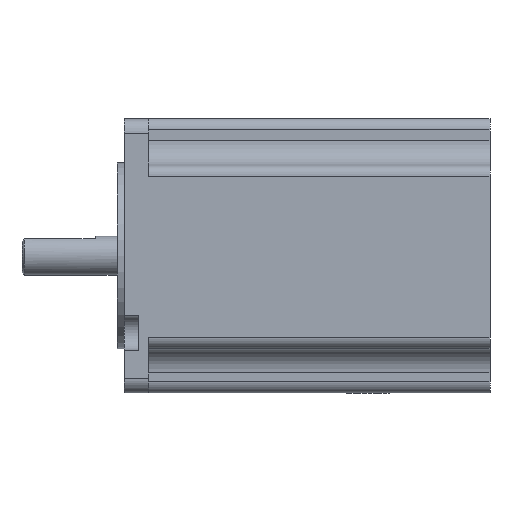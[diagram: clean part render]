
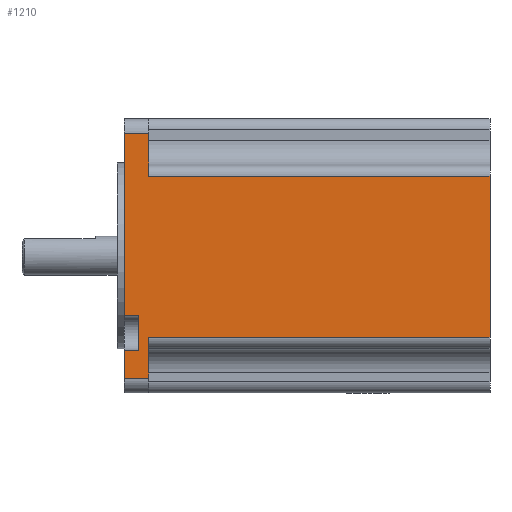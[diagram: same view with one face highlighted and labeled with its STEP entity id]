
A CAD part, left-side view. The second image highlights one B-rep face of the part: STEP entity #1210.
In plain terms, the highlighted planar face has unit normal (-1, 0, 0).
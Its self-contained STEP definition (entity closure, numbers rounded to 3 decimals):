
#49 = EDGE_CURVE ( 'NONE', #2161, #2102, #1697, .T. ) ;
#100 = DIRECTION ( 'NONE',  ( 0., -1., 0. ) ) ;
#122 = LINE ( 'NONE', #2050, #179 ) ;
#162 = EDGE_CURVE ( 'NONE', #2030, #423, #816, .T. ) ;
#179 = VECTOR ( 'NONE', #750, 1000. ) ;
#188 = LINE ( 'NONE', #2348, #551 ) ;
#237 = VECTOR ( 'NONE', #2130, 1000. ) ;
#266 = VECTOR ( 'NONE', #1065, 1000. ) ;
#287 = DIRECTION ( 'NONE',  ( 0., 0., 1. ) ) ;
#318 = VECTOR ( 'NONE', #287, 1000. ) ;
#342 = DIRECTION ( 'NONE',  ( 0., 1., 0. ) ) ;
#413 = CARTESIAN_POINT ( 'NONE',  ( -28.1, 2.1, -12.353 ) ) ;
#423 = VERTEX_POINT ( 'NONE', #1700 ) ;
#435 = CARTESIAN_POINT ( 'NONE',  ( -28.1, -70., -16.7 ) ) ;
#483 = DIRECTION ( 'NONE',  ( 0., 0., 1. ) ) ;
#505 = CARTESIAN_POINT ( 'NONE',  ( -28.1, 0., 25.1 ) ) ;
#527 = ORIENTED_EDGE ( 'NONE', *, *, #915, .F. ) ;
#551 = VECTOR ( 'NONE', #817, 1000. ) ;
#556 = EDGE_CURVE ( 'NONE', #2401, #2043, #188, .T. ) ;
#588 = VECTOR ( 'NONE', #1901, 1000. ) ;
#602 = PLANE ( 'NONE',  #2155 ) ;
#611 = CARTESIAN_POINT ( 'NONE',  ( -28.1, 2.1, -19.353 ) ) ;
#613 = VERTEX_POINT ( 'NONE', #2163 ) ;
#627 = LINE ( 'NONE', #887, #266 ) ;
#636 = CARTESIAN_POINT ( 'NONE',  ( -28.1, 2.1, -19.353 ) ) ;
#637 = ORIENTED_EDGE ( 'NONE', *, *, #2261, .F. ) ;
#669 = EDGE_CURVE ( 'NONE', #2438, #2102, #1815, .T. ) ;
#681 = DIRECTION ( 'NONE',  ( 0., 1., 0. ) ) ;
#692 = ORIENTED_EDGE ( 'NONE', *, *, #972, .F. ) ;
#709 = CARTESIAN_POINT ( 'NONE',  ( -28.1, 0., 16.3 ) ) ;
#751 = EDGE_CURVE ( 'NONE', #1590, #2401, #2006, .T. ) ;
#750 = DIRECTION ( 'NONE',  ( 0., 0., 1. ) ) ;
#773 = VECTOR ( 'NONE', #342, 1000. ) ;
#783 = ORIENTED_EDGE ( 'NONE', *, *, #2145, .F. ) ;
#784 = DIRECTION ( 'NONE',  ( 0., 1., 0. ) ) ;
#816 = LINE ( 'NONE', #1758, #318 ) ;
#817 = DIRECTION ( 'NONE',  ( 0., 0., 1. ) ) ;
#834 = CARTESIAN_POINT ( 'NONE',  ( -28.1, 5., -25.1 ) ) ;
#860 = VECTOR ( 'NONE', #681, 1000. ) ;
#863 = EDGE_LOOP ( 'NONE', ( #1415, #1967, #692, #1825, #2397, #2337, #864, #527, #783, #943, #2256, #637 ) ) ;
#864 = ORIENTED_EDGE ( 'NONE', *, *, #162, .T. ) ;
#887 = CARTESIAN_POINT ( 'NONE',  ( -28.1, 2.1, -19.353 ) ) ;
#915 = EDGE_CURVE ( 'NONE', #613, #423, #1705, .T. ) ;
#916 = LINE ( 'NONE', #1519, #1609 ) ;
#943 = ORIENTED_EDGE ( 'NONE', *, *, #751, .T. ) ;
#962 = CARTESIAN_POINT ( 'NONE',  ( -28.1, 5., 25.1 ) ) ;
#972 = EDGE_CURVE ( 'NONE', #2161, #1819, #627, .T. ) ;
#976 = DIRECTION ( 'NONE',  ( 0., 0., -1. ) ) ;
#1000 = CARTESIAN_POINT ( 'NONE',  ( -28.1, 5., 25.1 ) ) ;
#1007 = VECTOR ( 'NONE', #1154, 1000. ) ;
#1065 = DIRECTION ( 'NONE',  ( 0., 0., 1. ) ) ;
#1069 = CARTESIAN_POINT ( 'NONE',  ( -28.1, 5., 25.1 ) ) ;
#1092 = CARTESIAN_POINT ( 'NONE',  ( -28.1, -70., 16.3 ) ) ;
#1154 = DIRECTION ( 'NONE',  ( 0., 0., -1. ) ) ;
#1204 = EDGE_CURVE ( 'NONE', #1819, #1433, #916, .T. ) ;
#1210 = ADVANCED_FACE ( 'NONE', ( #1968 ), #602, .F. ) ;
#1212 = LINE ( 'NONE', #1000, #2089 ) ;
#1234 = CARTESIAN_POINT ( 'NONE',  ( -28.1, 5., -12.353 ) ) ;
#1301 = CARTESIAN_POINT ( 'NONE',  ( -28.1, -70., 16.3 ) ) ;
#1328 = VECTOR ( 'NONE', #483, 1000. ) ;
#1415 = ORIENTED_EDGE ( 'NONE', *, *, #2108, .F. ) ;
#1433 = VERTEX_POINT ( 'NONE', #1234 ) ;
#1503 = LINE ( 'NONE', #834, #237 ) ;
#1519 = CARTESIAN_POINT ( 'NONE',  ( -28.1, 2.1, -12.353 ) ) ;
#1590 = VERTEX_POINT ( 'NONE', #1092 ) ;
#1609 = VECTOR ( 'NONE', #784, 1000. ) ;
#1640 = CARTESIAN_POINT ( 'NONE',  ( -28.1, 5., -25.1 ) ) ;
#1697 = LINE ( 'NONE', #611, #588 ) ;
#1700 = CARTESIAN_POINT ( 'NONE',  ( -28.1, 0., -16.7 ) ) ;
#1705 = LINE ( 'NONE', #435, #860 ) ;
#1737 = VERTEX_POINT ( 'NONE', #962 ) ;
#1758 = CARTESIAN_POINT ( 'NONE',  ( -28.1, 0., 25.1 ) ) ;
#1773 = CARTESIAN_POINT ( 'NONE',  ( -28.1, 0., -25.1 ) ) ;
#1815 = LINE ( 'NONE', #1069, #1328 ) ;
#1819 = VERTEX_POINT ( 'NONE', #413 ) ;
#1825 = ORIENTED_EDGE ( 'NONE', *, *, #49, .T. ) ;
#1889 = CARTESIAN_POINT ( 'NONE',  ( -28.1, 5., 25.1 ) ) ;
#1901 = DIRECTION ( 'NONE',  ( 0., 1., 0. ) ) ;
#1944 = EDGE_CURVE ( 'NONE', #2438, #2030, #1503, .T. ) ;
#1967 = ORIENTED_EDGE ( 'NONE', *, *, #1204, .F. ) ;
#1968 = FACE_OUTER_BOUND ( 'NONE', #863, .T. ) ;
#2006 = LINE ( 'NONE', #1301, #773 ) ;
#2030 = VERTEX_POINT ( 'NONE', #1773 ) ;
#2032 = LINE ( 'NONE', #2270, #1007 ) ;
#2043 = VERTEX_POINT ( 'NONE', #505 ) ;
#2050 = CARTESIAN_POINT ( 'NONE',  ( -28.1, 5., 25.1 ) ) ;
#2089 = VECTOR ( 'NONE', #100, 1000. ) ;
#2101 = DIRECTION ( 'NONE',  ( 1., 0., 0. ) ) ;
#2102 = VERTEX_POINT ( 'NONE', #2236 ) ;
#2108 = EDGE_CURVE ( 'NONE', #1433, #1737, #122, .T. ) ;
#2130 = DIRECTION ( 'NONE',  ( 0., -1., 0. ) ) ;
#2145 = EDGE_CURVE ( 'NONE', #1590, #613, #2032, .T. ) ;
#2155 = AXIS2_PLACEMENT_3D ( 'NONE', #1889, #2101, #976 ) ;
#2161 = VERTEX_POINT ( 'NONE', #636 ) ;
#2163 = CARTESIAN_POINT ( 'NONE',  ( -28.1, -70., -16.7 ) ) ;
#2236 = CARTESIAN_POINT ( 'NONE',  ( -28.1, 5., -19.353 ) ) ;
#2256 = ORIENTED_EDGE ( 'NONE', *, *, #556, .T. ) ;
#2261 = EDGE_CURVE ( 'NONE', #1737, #2043, #1212, .T. ) ;
#2270 = CARTESIAN_POINT ( 'NONE',  ( -28.1, -70., 16.3 ) ) ;
#2337 = ORIENTED_EDGE ( 'NONE', *, *, #1944, .T. ) ;
#2348 = CARTESIAN_POINT ( 'NONE',  ( -28.1, 0., 25.1 ) ) ;
#2397 = ORIENTED_EDGE ( 'NONE', *, *, #669, .F. ) ;
#2401 = VERTEX_POINT ( 'NONE', #709 ) ;
#2438 = VERTEX_POINT ( 'NONE', #1640 ) ;
